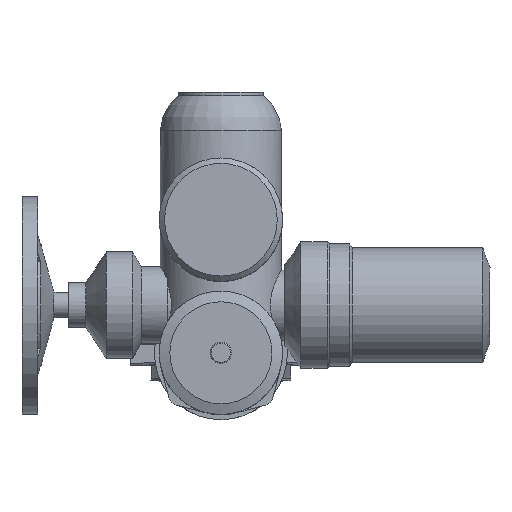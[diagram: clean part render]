
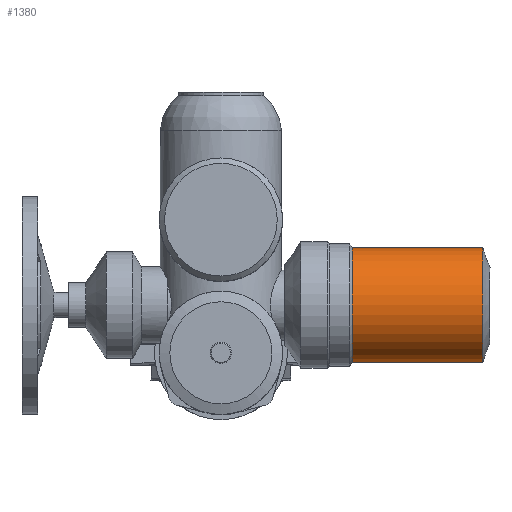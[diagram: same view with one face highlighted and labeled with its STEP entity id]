
A CAD part, top view. The second image highlights one B-rep face of the part: STEP entity #1380.
In plain terms, the highlighted cylindrical face has radius 54 mm (diameter 108 mm), a full revolution.
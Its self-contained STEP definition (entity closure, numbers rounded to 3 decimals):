
#1380=ADVANCED_FACE('',(#3308,#3310),#3312,.T.);
#3308=FACE_OUTER_BOUND('',#3309,.T.);
#3309=EDGE_LOOP('',(#4696));
#3310=FACE_OUTER_BOUND('',#3311,.T.);
#3311=EDGE_LOOP('',(#4697));
#3312=CYLINDRICAL_SURFACE('',#3313,54.);
#3313=AXIS2_PLACEMENT_3D('',#3314,#3315,#3316);
#3314=CARTESIAN_POINT('',(246.085,45.,441.));
#3315=DIRECTION('',(-1.,0.,0.));
#3316=DIRECTION('',(0.,0.,1.));
#4696=ORIENTED_EDGE('',*,*,#5515,.T.);
#4697=ORIENTED_EDGE('',*,*,#5449,.F.);
#5449=EDGE_CURVE('',#6244,#6244,#6245,.T.);
#5515=EDGE_CURVE('',#6360,#6360,#6361,.T.);
#6244=VERTEX_POINT('',#9029);
#6245=CIRCLE('',#9030,54.);
#6360=VERTEX_POINT('',#9297);
#6361=CIRCLE('',#9298,54.);
#9029=CARTESIAN_POINT('',(123.505,45.,495.));
#9030=AXIS2_PLACEMENT_3D('',#9031,#9032,#9033);
#9031=CARTESIAN_POINT('',(123.505,45.,441.));
#9032=DIRECTION('',(-1.,0.,0.));
#9033=DIRECTION('',(0.,0.,1.));
#9297=CARTESIAN_POINT('',(246.085,45.,495.));
#9298=AXIS2_PLACEMENT_3D('',#9299,#9300,#9301);
#9299=CARTESIAN_POINT('',(246.085,45.,441.));
#9300=DIRECTION('',(-1.,0.,0.));
#9301=DIRECTION('',(0.,0.,1.));
